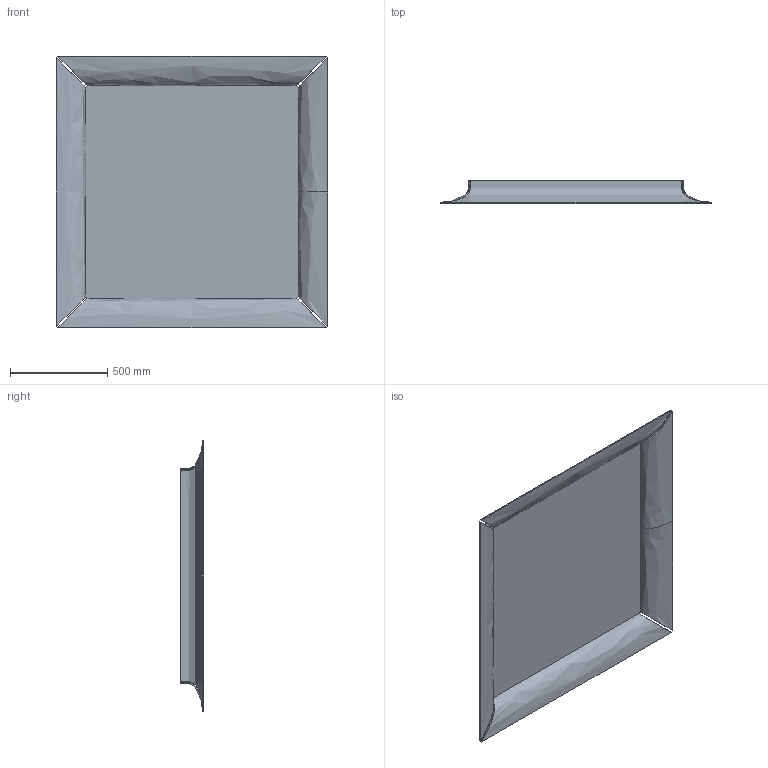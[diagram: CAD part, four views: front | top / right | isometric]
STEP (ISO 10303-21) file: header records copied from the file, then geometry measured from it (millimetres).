
FILE_DESCRIPTION(/* description */ (''),/* implementation_level */ '2;1');
FILE_NAME(/* name */ 'CAADRE~1',/* time_stamp */ '2018-10-08T14:33:10+02:00',/* author */ (''),/* organization */ (''),/* preprocessor_version */ 'ST-DEVELOPER v16.5',/* originating_system */ '',/* authorisation */ '');
FILE_SCHEMA (('CONFIG_CONTROL_DESIGN'));
Length unit declared in the file: millimetre
Products named in the file (1): Document
Bounding box: 1396 x 119 x 1396 mm (x, y, z)
Volume: 18199198.6 mm3; surface area: 5222756.2 mm2
Topology: 6 solids, 6 shells, 68 faces, 158 edges, 98 vertices
Faces by surface type: bspline 46, plane 22
Entity records: 3747 total; most frequent: CARTESIAN_POINT 2603, ORIENTED_EDGE 312, EDGE_CURVE 156, B_SPLINE_CURVE_WITH_KNOTS 156, VERTEX_POINT 96, ADVANCED_FACE 68, FACE_OUTER_BOUND 68, EDGE_LOOP 68
